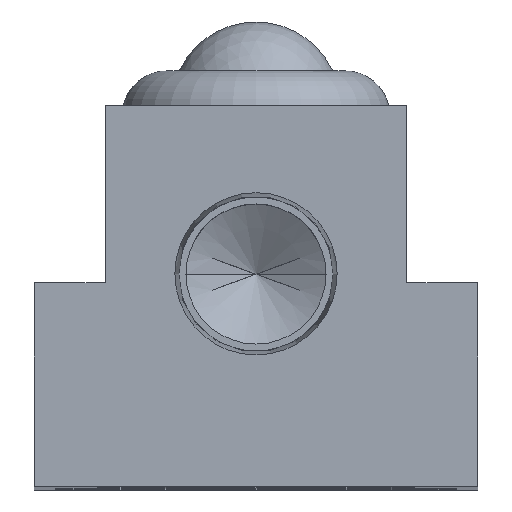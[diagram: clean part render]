
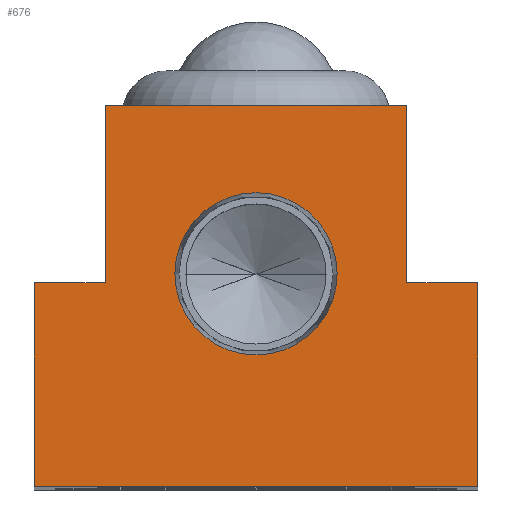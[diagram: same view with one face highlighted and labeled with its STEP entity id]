
A CAD part, top view. The second image highlights one B-rep face of the part: STEP entity #676.
In plain terms, the highlighted planar face has unit normal (0, 0, 1).
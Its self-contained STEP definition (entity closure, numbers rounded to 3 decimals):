
#94 = DIRECTION ( 'NONE',  ( -1., 0., 0. ) ) ;
#113 = ORIENTED_EDGE ( 'NONE', *, *, #2167, .T. ) ;
#141 = DIRECTION ( 'NONE',  ( 0., 0., 1. ) ) ;
#206 = CARTESIAN_POINT ( 'NONE',  ( 4.574, 12., 0. ) ) ;
#229 = EDGE_LOOP ( 'NONE', ( #889, #789, #1694, #978, #2737, #113, #1489, #2120 ) ) ;
#297 = CARTESIAN_POINT ( 'NONE',  ( 8.5, 21.5, 0. ) ) ;
#305 = DIRECTION ( 'NONE',  ( 0., 1., 0. ) ) ;
#354 = FACE_OUTER_BOUND ( 'NONE', #229, .T. ) ;
#394 = CARTESIAN_POINT ( 'NONE',  ( -4.574, 12., 0. ) ) ;
#444 = LINE ( 'NONE', #1140, #3299 ) ;
#474 = LINE ( 'NONE', #526, #3414 ) ;
#479 = LINE ( 'NONE', #3070, #2652 ) ;
#502 = CIRCLE ( 'NONE', #2908, 4.574 ) ;
#519 = VERTEX_POINT ( 'NONE', #1484 ) ;
#526 = CARTESIAN_POINT ( 'NONE',  ( 8.5, 11.5, 0. ) ) ;
#578 = EDGE_CURVE ( 'NONE', #2643, #2898, #786, .T. ) ;
#591 = AXIS2_PLACEMENT_3D ( 'NONE', #3263, #141, #2136 ) ;
#627 = DIRECTION ( 'NONE',  ( -1., 0., 0. ) ) ;
#654 = LINE ( 'NONE', #1330, #2919 ) ;
#676 = ADVANCED_FACE ( 'NONE', ( #2695, #354 ), #1255, .T. ) ;
#780 = CARTESIAN_POINT ( 'NONE',  ( 0., 12., 0. ) ) ;
#786 = LINE ( 'NONE', #3506, #3558 ) ;
#789 = ORIENTED_EDGE ( 'NONE', *, *, #578, .T. ) ;
#818 = EDGE_CURVE ( 'NONE', #1935, #1980, #654, .T. ) ;
#828 = CARTESIAN_POINT ( 'NONE',  ( -12.5, 0., 0. ) ) ;
#878 = EDGE_CURVE ( 'NONE', #919, #3253, #479, .T. ) ;
#889 = ORIENTED_EDGE ( 'NONE', *, *, #3084, .T. ) ;
#891 = CARTESIAN_POINT ( 'NONE',  ( 0., 12., 0. ) ) ;
#919 = VERTEX_POINT ( 'NONE', #1383 ) ;
#978 = ORIENTED_EDGE ( 'NONE', *, *, #1640, .T. ) ;
#1069 = DIRECTION ( 'NONE',  ( 1., 0., 0. ) ) ;
#1097 = VECTOR ( 'NONE', #627, 1000. ) ;
#1140 = CARTESIAN_POINT ( 'NONE',  ( 12.5, 0., 0. ) ) ;
#1167 = DIRECTION ( 'NONE',  ( 1., 0., 0. ) ) ;
#1224 = CARTESIAN_POINT ( 'NONE',  ( -8.5, 11.5, 0. ) ) ;
#1245 = VECTOR ( 'NONE', #1346, 1000. ) ;
#1254 = VERTEX_POINT ( 'NONE', #394 ) ;
#1255 = PLANE ( 'NONE',  #591 ) ;
#1330 = CARTESIAN_POINT ( 'NONE',  ( -12.5, 11.5, 0. ) ) ;
#1346 = DIRECTION ( 'NONE',  ( 1., 0., 0. ) ) ;
#1383 = CARTESIAN_POINT ( 'NONE',  ( -8.5, 21.5, 0. ) ) ;
#1484 = CARTESIAN_POINT ( 'NONE',  ( 12.5, 0., 0. ) ) ;
#1489 = ORIENTED_EDGE ( 'NONE', *, *, #818, .T. ) ;
#1494 = EDGE_CURVE ( 'NONE', #2428, #1254, #502, .T. ) ;
#1518 = EDGE_CURVE ( 'NONE', #1980, #519, #2673, .T. ) ;
#1640 = EDGE_CURVE ( 'NONE', #3047, #919, #2982, .T. ) ;
#1675 = DIRECTION ( 'NONE',  ( 0., 1., 0. ) ) ;
#1694 = ORIENTED_EDGE ( 'NONE', *, *, #3573, .T. ) ;
#1713 = EDGE_CURVE ( 'NONE', #1254, #2428, #3486, .T. ) ;
#1932 = CARTESIAN_POINT ( 'NONE',  ( 8.5, 11.5, 0. ) ) ;
#1934 = DIRECTION ( 'NONE',  ( 0., -1., 0. ) ) ;
#1935 = VERTEX_POINT ( 'NONE', #3388 ) ;
#1980 = VERTEX_POINT ( 'NONE', #828 ) ;
#2048 = EDGE_LOOP ( 'NONE', ( #3642, #2055 ) ) ;
#2054 = LINE ( 'NONE', #3485, #1097 ) ;
#2055 = ORIENTED_EDGE ( 'NONE', *, *, #1713, .F. ) ;
#2098 = CARTESIAN_POINT ( 'NONE',  ( 12.5, 11.5, 0. ) ) ;
#2120 = ORIENTED_EDGE ( 'NONE', *, *, #1518, .T. ) ;
#2136 = DIRECTION ( 'NONE',  ( 1., 0., 0. ) ) ;
#2167 = EDGE_CURVE ( 'NONE', #3253, #1935, #2054, .T. ) ;
#2294 = DIRECTION ( 'NONE',  ( -1., 0., 0. ) ) ;
#2428 = VERTEX_POINT ( 'NONE', #206 ) ;
#2643 = VERTEX_POINT ( 'NONE', #2098 ) ;
#2652 = VECTOR ( 'NONE', #1934, 1000. ) ;
#2673 = LINE ( 'NONE', #3359, #1245 ) ;
#2695 = FACE_BOUND ( 'NONE', #2048, .T. ) ;
#2737 = ORIENTED_EDGE ( 'NONE', *, *, #878, .T. ) ;
#2770 = DIRECTION ( 'NONE',  ( 0., 0., 1. ) ) ;
#2872 = DIRECTION ( 'NONE',  ( 0., 0., 1. ) ) ;
#2891 = VECTOR ( 'NONE', #2294, 1000. ) ;
#2898 = VERTEX_POINT ( 'NONE', #1932 ) ;
#2908 = AXIS2_PLACEMENT_3D ( 'NONE', #780, #2770, #1069 ) ;
#2919 = VECTOR ( 'NONE', #3340, 1000. ) ;
#2982 = LINE ( 'NONE', #297, #2891 ) ;
#3047 = VERTEX_POINT ( 'NONE', #3433 ) ;
#3070 = CARTESIAN_POINT ( 'NONE',  ( -8.5, 21.5, 0. ) ) ;
#3084 = EDGE_CURVE ( 'NONE', #519, #2643, #444, .T. ) ;
#3231 = AXIS2_PLACEMENT_3D ( 'NONE', #891, #2872, #1167 ) ;
#3253 = VERTEX_POINT ( 'NONE', #1224 ) ;
#3263 = CARTESIAN_POINT ( 'NONE',  ( 0., 0., 0. ) ) ;
#3299 = VECTOR ( 'NONE', #305, 1000. ) ;
#3340 = DIRECTION ( 'NONE',  ( 0., -1., 0. ) ) ;
#3359 = CARTESIAN_POINT ( 'NONE',  ( -12.5, 0., 0. ) ) ;
#3388 = CARTESIAN_POINT ( 'NONE',  ( -12.5, 11.5, 0. ) ) ;
#3414 = VECTOR ( 'NONE', #1675, 1000. ) ;
#3433 = CARTESIAN_POINT ( 'NONE',  ( 8.5, 21.5, 0. ) ) ;
#3485 = CARTESIAN_POINT ( 'NONE',  ( -8.5, 11.5, 0. ) ) ;
#3486 = CIRCLE ( 'NONE', #3231, 4.574 ) ;
#3506 = CARTESIAN_POINT ( 'NONE',  ( 12.5, 11.5, 0. ) ) ;
#3558 = VECTOR ( 'NONE', #94, 1000. ) ;
#3573 = EDGE_CURVE ( 'NONE', #2898, #3047, #474, .T. ) ;
#3642 = ORIENTED_EDGE ( 'NONE', *, *, #1494, .F. ) ;
